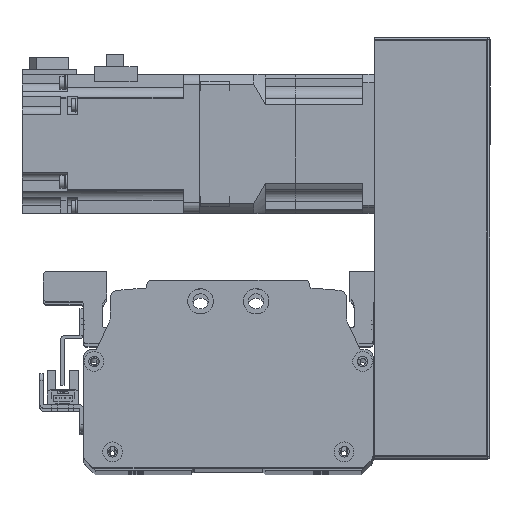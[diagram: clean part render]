
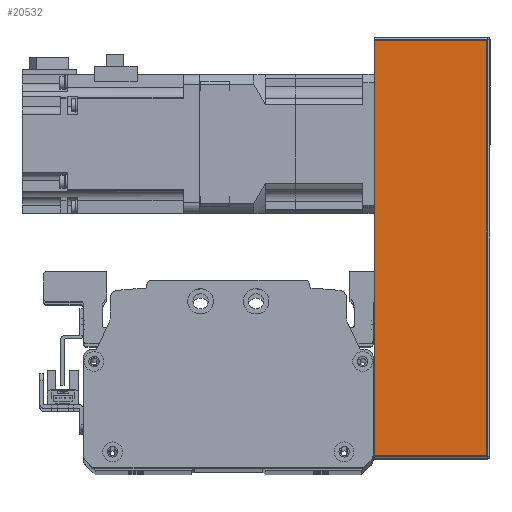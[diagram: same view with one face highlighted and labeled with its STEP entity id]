
A CAD part, top view. The second image highlights one B-rep face of the part: STEP entity #20532.
In plain terms, the highlighted planar face has unit normal (0, 0, 1) as drawn and (0, -1, 0) by its records, which use the part's own axes.
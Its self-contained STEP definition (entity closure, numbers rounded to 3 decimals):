
#563=PLANE('',#22527);
#1778=LINE('',#33468,#3402);
#1792=LINE('',#33520,#3416);
#1794=LINE('',#33528,#3418);
#1795=LINE('',#33530,#3419);
#3402=VECTOR('',#27193,10.);
#3416=VECTOR('',#27253,10.);
#3418=VECTOR('',#27267,10.);
#3419=VECTOR('',#27270,10.);
#5790=FACE_OUTER_BOUND('',#7246,.T.);
#7246=EDGE_LOOP('',(#17074,#17075,#17076,#17077));
#10114=VERTEX_POINT('',#33465);
#10115=VERTEX_POINT('',#33467);
#10129=VERTEX_POINT('',#33515);
#10130=VERTEX_POINT('',#33518);
#12558=EDGE_CURVE('',#10115,#10114,#1778,.T.);
#12586=EDGE_CURVE('',#10129,#10130,#1792,.T.);
#12590=EDGE_CURVE('',#10130,#10115,#1794,.T.);
#12591=EDGE_CURVE('',#10114,#10129,#1795,.T.);
#17074=ORIENTED_EDGE('',*,*,#12586,.T.);
#17075=ORIENTED_EDGE('',*,*,#12590,.T.);
#17076=ORIENTED_EDGE('',*,*,#12558,.T.);
#17077=ORIENTED_EDGE('',*,*,#12591,.T.);
#20532=ADVANCED_FACE('',(#5790),#563,.F.);
#22527=AXIS2_PLACEMENT_3D('',#33529,#27268,#27269);
#27193=DIRECTION('',(1.,0.,0.));
#27253=DIRECTION('',(-1.,0.,0.));
#27267=DIRECTION('',(0.,0.,-1.));
#27268=DIRECTION('center_axis',(0.,1.,0.));
#27269=DIRECTION('ref_axis',(1.,0.,0.));
#27270=DIRECTION('',(0.,0.,1.));
#33465=CARTESIAN_POINT('',(90.,-38.,-25.));
#33467=CARTESIAN_POINT('',(-90.,-38.,-25.));
#33468=CARTESIAN_POINT('',(91.,-38.,-25.));
#33515=CARTESIAN_POINT('',(90.,-38.,24.));
#33518=CARTESIAN_POINT('',(-90.,-38.,24.));
#33520=CARTESIAN_POINT('',(-45.5,-38.,24.));
#33528=CARTESIAN_POINT('',(-90.,-38.,0.));
#33529=CARTESIAN_POINT('Origin',(-91.,-38.,0.));
#33530=CARTESIAN_POINT('',(90.,-38.,0.));
